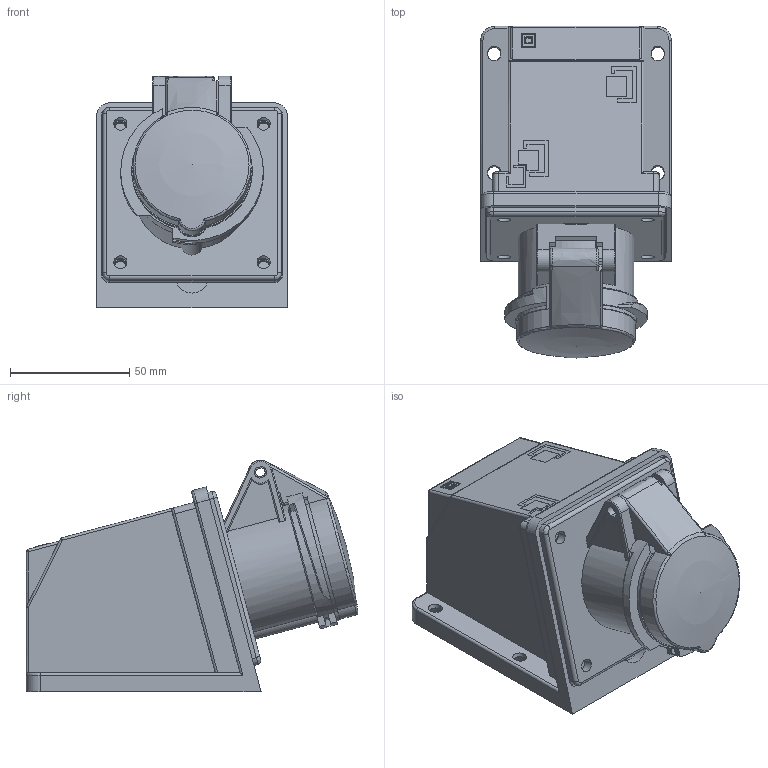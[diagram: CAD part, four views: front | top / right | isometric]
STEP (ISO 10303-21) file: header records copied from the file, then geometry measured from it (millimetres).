
FILE_DESCRIPTION(('FreeCAD Model'),'2;1');
FILE_NAME('Open CASCADE Shape Model','2026-02-04T09:18:49',(''),(''), 'Open CASCADE STEP processor 7.8','FreeCAD','Unknown');
FILE_SCHEMA(('AUTOMOTIVE_DESIGN { 1 0 10303 214 1 1 1 1 }'));
Length unit declared in the file: millimetre
Products named in the file (6): TL3S16432; Base tomada interna; Estrutura base; Corpo tomada; terminais; Tampa
Assembly tree (5 placements, depth 2):
  TL3S16432
    Base tomada interna
    Estrutura base
    Corpo tomada
    terminais
    Tampa
Bounding box: 80 x 139.11 x 97.23 mm (x, y, z)
Volume: 430604.9 mm3; surface area: 105530.2 mm2
Topology: 5 solids, 47 shells, 1204 faces, 3006 edges, 1944 vertices
Faces by surface type: plane 670, cylinder 363, torus 68, bspline 49, sphere 38, cone 16
Full cylindrical faces by diameter (mm): 7.5 x1
Entity records: 40049 total; most frequent: CARTESIAN_POINT 10825, DIRECTION 6111, ORIENTED_EDGE 6010, EDGE_CURVE 3005, AXIS2_PLACEMENT_3D 2155, VERTEX_POINT 1944, LINE 1801, VECTOR 1801
